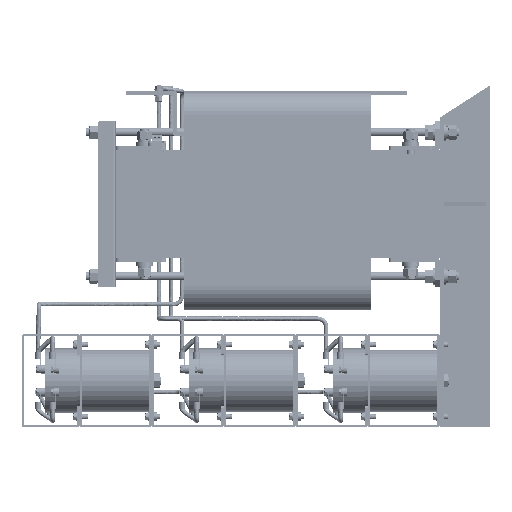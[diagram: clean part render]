
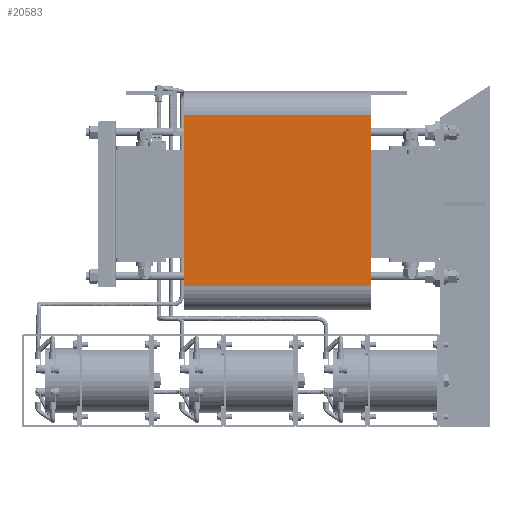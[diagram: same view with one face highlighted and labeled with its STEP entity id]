
A CAD part, left-side view. The second image highlights one B-rep face of the part: STEP entity #20583.
In plain terms, the highlighted planar face has unit normal (-1, 0, 0).
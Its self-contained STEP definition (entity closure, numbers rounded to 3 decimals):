
#20583=ADVANCED_FACE('',(#35416),#35418,.F.);
#35416=FACE_BOUND('',#35417,.T.);
#35417=EDGE_LOOP('',(#57700,#57701,#57702,#57703));
#35418=PLANE('',#35419);
#35419=AXIS2_PLACEMENT_3D('',#35420,#35421,#35422);
#35420=CARTESIAN_POINT('',(-80.,147.,130.));
#35421=DIRECTION('',(1.,0.,0.));
#35422=DIRECTION('',(0.,1.,0.));
#57700=ORIENTED_EDGE('',*,*,#63003,.F.);
#57701=ORIENTED_EDGE('',*,*,#63037,.T.);
#57702=ORIENTED_EDGE('',*,*,#63017,.T.);
#57703=ORIENTED_EDGE('',*,*,#63038,.T.);
#63003=EDGE_CURVE('',#68223,#68225,#68226,.T.);
#63017=EDGE_CURVE('',#68252,#68253,#68254,.T.);
#63037=EDGE_CURVE('',#68223,#68252,#68288,.T.);
#63038=EDGE_CURVE('',#68253,#68225,#68289,.T.);
#68223=VERTEX_POINT('',#85930);
#68225=VERTEX_POINT('',#85935);
#68226=LINE('',#85936,#85937);
#68252=VERTEX_POINT('',#85997);
#68253=VERTEX_POINT('',#85998);
#68254=LINE('',#85999,#86000);
#68288=LINE('',#86081,#86082);
#68289=LINE('',#86084,#86085);
#85930=CARTESIAN_POINT('',(-80.,114.,130.));
#85935=CARTESIAN_POINT('',(-80.,-124.,130.));
#85936=CARTESIAN_POINT('',(-80.,114.,130.));
#85937=VECTOR('',#85938,1.);
#85938=DIRECTION('',(0.,-1.,0.));
#85997=CARTESIAN_POINT('',(-80.,114.,-130.));
#85998=CARTESIAN_POINT('',(-80.,-124.,-130.));
#85999=CARTESIAN_POINT('',(-80.,114.,-130.));
#86000=VECTOR('',#86001,1.);
#86001=DIRECTION('',(0.,-1.,0.));
#86081=CARTESIAN_POINT('',(-80.,114.,130.));
#86082=VECTOR('',#86083,1.);
#86083=DIRECTION('',(0.,0.,-1.));
#86084=CARTESIAN_POINT('',(-80.,-124.,-130.));
#86085=VECTOR('',#86086,1.);
#86086=DIRECTION('',(0.,0.,1.));
